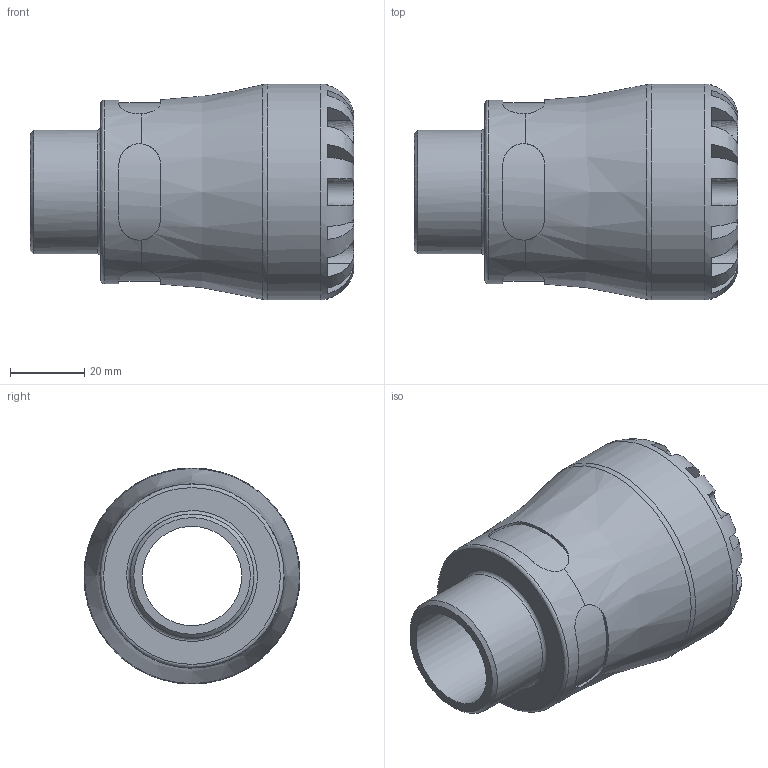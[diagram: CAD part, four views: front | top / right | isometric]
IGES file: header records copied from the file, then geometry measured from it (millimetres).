
Global section: file name: 150200032010; native system: Autodesk Inventor 2019; preprocessor: unknown; author: KIM; date: 20231017.191444; units: millimetre
Bounding box: 87 x 58 x 58 mm (x, y, z)
Volume: 102023.2 mm3; surface area: 25977.6 mm2
Topology: 1 solids, 1 shells, 100 faces, 273 edges, 177 vertices
Faces by surface type: bspline 100
